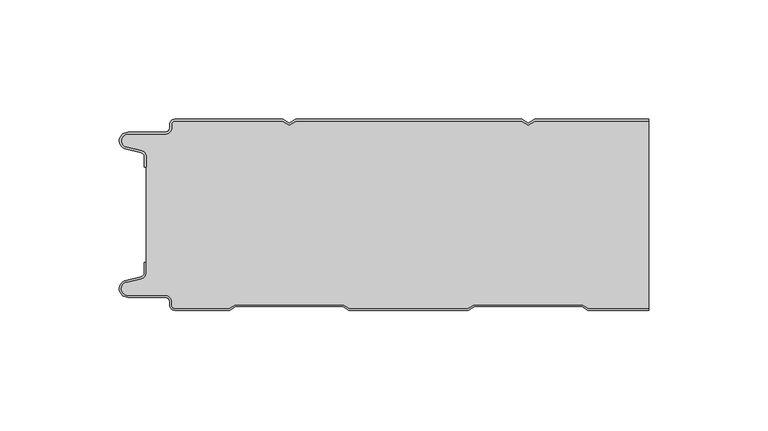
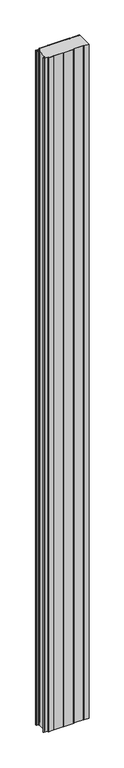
"""IFC4 building model written with IfcOpenShell, lengths in millimetres: plate geometry, PMH_Curtain-PaneL-Standard : ACH_PMH_Stone-wool-Panel_80M."""

from ifc_helpers import new_model, si_unit, point, frame_2d, origin, origin_with_axes, place, context, project, spatial, polyline, circle_curve, trimmed, segment, composite_curve, outline, extrude, source, transform, mapped, element, save


def plate_76a87134(model_context):
    return source(origin(), model_context, "Body", "SweptSolid", [
        extrude(outline(composite_curve([segment(trimmed(circle_curve(frame_2d((-102.0, -15.878557)), 2.0), [point((-100.0, -15.878557))], [point((-101.5500978, -13.9298169))], True, "CARTESIAN"), True, "CONTINUOUS"), segment(polyline([(-101.5500978, -13.9298169), (-107.7098239, -12.507732)]), True, "CONTINUOUS"), segment(trimmed(circle_curve(frame_2d((-106.9, -9.0)), 3.6), [point((-107.7098239, -12.507732))], [point((-106.9, -5.4))], False, "CARTESIAN"), True, "CONTINUOUS"), segment(polyline([(-106.9, -5.4), (-91.4, -5.4)]), True, "CONTINUOUS"), segment(trimmed(circle_curve(frame_2d((-91.4, -3.4)), 2.0), [point((-91.4, -5.4))], [point((-89.4, -3.4))], True, "CARTESIAN"), True, "CONTINUOUS"), segment(polyline([(-89.4, -3.4), (-89.4, -2.0)]), True, "CONTINUOUS"), segment(trimmed(circle_curve(frame_2d((-87.4, -2.0)), 2.0), [point((-89.4, -2.0))], [point((-87.4, 0.0))], False, "CARTESIAN"), True, "CONTINUOUS"), segment(polyline([(-87.4, 0.0), (-42.0999995, 0.0), (-39.4, -1.5588455), (-36.7000005, 0.0), (57.9000005, 0.0), (60.6, -1.5588455), (63.2999995, 0.0), (111.0, 0.0), (111.0, -0.8), (63.5143588, -0.8), (60.6, -2.482606), (57.6856412, -0.8), (-36.4856412, -0.8), (-39.4, -2.482606), (-42.3143588, -0.8), (-87.4, -0.8)]), True, "CONTINUOUS"), segment(trimmed(circle_curve(frame_2d((-87.4, -2.0)), 1.2), [point((-87.4, -0.8))], [point((-88.6, -2.0))], True, "CARTESIAN"), True, "CONTINUOUS"), segment(polyline([(-88.6, -2.0), (-88.6, -3.4)]), True, "CONTINUOUS"), segment(trimmed(circle_curve(frame_2d((-91.4, -3.4)), 2.8), [point((-88.6, -3.4))], [point((-91.4, -6.2))], False, "CARTESIAN"), True, "CONTINUOUS"), segment(polyline([(-91.4, -6.2), (-106.9, -6.2)]), True, "CONTINUOUS"), segment(trimmed(circle_curve(frame_2d((-106.9, -9.0)), 2.8), [point((-106.9, -6.2))], [point((-107.529863, -11.7282362))], True, "CARTESIAN"), True, "CONTINUOUS"), segment(polyline([(-107.529863, -11.7282362), (-101.370137, -13.150321)]), True, "CONTINUOUS"), segment(trimmed(circle_curve(frame_2d((-102.0, -15.878557)), 2.8), [point((-101.370137, -13.150321))], [point((-99.2, -15.878557))], False, "CARTESIAN"), True, "CONTINUOUS"), segment(polyline([(-99.2, -15.878557), (-99.2, -20.0), (-100.0, -20.0), (-100.0, -15.878557)]), True, "CONTINUOUS")], self_intersect=False)), origin_with_axes(), (0.0, 0.0, 1.0), 3500.0),
        extrude(outline(composite_curve([segment(polyline([(-99.2, -64.121443), (-99.2, -15.8785573)]), True, "CONTINUOUS"), segment(trimmed(circle_curve(frame_2d((-102.0, -15.8785573)), 2.8), [point((-99.2, -15.8785573))], [point((-101.370137, -13.1503212))], True, "CARTESIAN"), True, "CONTINUOUS"), segment(polyline([(-101.370137, -13.1503212), (-107.5298631, -11.7282362)]), True, "CONTINUOUS"), segment(trimmed(circle_curve(frame_2d((-106.9, -9.0)), 2.8), [point((-107.5298631, -11.7282362))], [point((-106.9, -6.2))], False, "CARTESIAN"), True, "CONTINUOUS"), segment(polyline([(-106.9, -6.2), (-91.4000001, -6.2)]), True, "CONTINUOUS"), segment(trimmed(circle_curve(frame_2d((-91.4000001, -3.4)), 2.8), [point((-91.4000001, -6.2))], [point((-88.6000001, -3.4))], True, "CARTESIAN"), True, "CONTINUOUS"), segment(polyline([(-88.6000001, -3.4), (-88.6000001, -2.0)]), True, "CONTINUOUS"), segment(trimmed(circle_curve(frame_2d((-87.4000001, -2.0)), 1.2), [point((-88.6000001, -2.0))], [point((-87.4000001, -0.8))], False, "CARTESIAN"), True, "CONTINUOUS"), segment(polyline([(-87.4000001, -0.8), (-42.3143589, -0.8), (-39.4000001, -2.482606), (-36.4856412, -0.8), (57.6856411, -0.8), (60.5999999, -2.482606), (63.5143588, -0.8), (111.0, -0.8), (111.0, -79.2), (85.8105122, -79.2), (83.2124346, -77.7), (37.9837184, -77.7), (35.3856408, -79.2), (-14.1894878, -79.2), (-16.7875654, -77.7), (-62.0162816, -77.7), (-64.6143592, -79.2), (-87.4, -79.2)]), True, "CONTINUOUS"), segment(trimmed(circle_curve(frame_2d((-87.4, -78.0)), 1.2), [point((-87.4, -79.2))], [point((-88.6, -78.0))], False, "CARTESIAN"), True, "CONTINUOUS"), segment(polyline([(-88.6, -78.0), (-88.6, -76.5999998)]), True, "CONTINUOUS"), segment(trimmed(circle_curve(frame_2d((-91.4, -76.5999998)), 2.8), [point((-88.6, -76.5999998))], [point((-91.4, -73.7999998))], True, "CARTESIAN"), True, "CONTINUOUS"), segment(polyline([(-91.4, -73.7999998), (-106.9, -73.7999998)]), True, "CONTINUOUS"), segment(trimmed(circle_curve(frame_2d((-106.9, -71.0)), 2.7999998), [point((-106.9, -73.7999998))], [point((-107.529863, -68.271764))], False, "CARTESIAN"), True, "CONTINUOUS"), segment(polyline([(-107.529863, -68.271764), (-101.370137, -66.8496792)]), True, "CONTINUOUS"), segment(trimmed(circle_curve(frame_2d((-102.0, -64.121443)), 2.8), [point((-101.370137, -66.8496792))], [point((-99.2, -64.121443))], True, "CARTESIAN"), True, "CONTINUOUS")], self_intersect=False)), origin_with_axes(), (0.0, 0.0, 1.0), 3500.0),
        extrude(outline(composite_curve([segment(trimmed(circle_curve(frame_2d((-87.4, -78.0)), 2.0), [point((-87.4, -80.0))], [point((-89.4, -78.0))], False, "CARTESIAN"), True, "CONTINUOUS"), segment(polyline([(-89.4, -78.0), (-89.4, -76.6)]), True, "CONTINUOUS"), segment(trimmed(circle_curve(frame_2d((-91.4, -76.6)), 2.0), [point((-89.4, -76.6))], [point((-91.4, -74.6))], True, "CARTESIAN"), True, "CONTINUOUS"), segment(polyline([(-91.4, -74.6), (-106.9, -74.6)]), True, "CONTINUOUS"), segment(trimmed(circle_curve(frame_2d((-106.9, -71.0)), 3.6), [point((-106.9, -74.6))], [point((-107.7098239, -67.4922678))], False, "CARTESIAN"), True, "CONTINUOUS"), segment(polyline([(-107.7098239, -67.4922678), (-101.5500979, -66.070183)]), True, "CONTINUOUS"), segment(trimmed(circle_curve(frame_2d((-102.0, -64.121443)), 2.0), [point((-101.5500979, -66.070183))], [point((-100.0, -64.121443))], True, "CARTESIAN"), True, "CONTINUOUS"), segment(polyline([(-100.0, -64.121443), (-100.0, -60.0), (-99.2, -60.0), (-99.2, -64.121443)]), True, "CONTINUOUS"), segment(trimmed(circle_curve(frame_2d((-102.0, -64.121443)), 2.8), [point((-99.2, -64.121443))], [point((-101.370137, -66.8496792))], False, "CARTESIAN"), True, "CONTINUOUS"), segment(polyline([(-101.370137, -66.8496792), (-107.529863, -68.271764)]), True, "CONTINUOUS"), segment(trimmed(circle_curve(frame_2d((-106.9, -71.0)), 2.8), [point((-107.529863, -68.271764))], [point((-106.9, -73.8))], True, "CARTESIAN"), True, "CONTINUOUS"), segment(polyline([(-106.9, -73.8), (-91.4, -73.8)]), True, "CONTINUOUS"), segment(trimmed(circle_curve(frame_2d((-91.4, -76.6)), 2.8), [point((-91.4, -73.8))], [point((-88.6, -76.6))], False, "CARTESIAN"), True, "CONTINUOUS"), segment(polyline([(-88.6, -76.6), (-88.6, -78.0)]), True, "CONTINUOUS"), segment(trimmed(circle_curve(frame_2d((-87.4, -78.0)), 1.2), [point((-88.6, -78.0))], [point((-87.4, -79.2))], True, "CARTESIAN"), True, "CONTINUOUS"), segment(polyline([(-87.4, -79.2), (-64.6143592, -79.2), (-62.0162816, -77.7), (-16.7875654, -77.7), (-14.1894878, -79.2), (35.3856408, -79.2), (37.9837184, -77.7), (83.2124346, -77.7), (85.8105122, -79.2), (111.0, -79.2), (111.0, -80.0), (85.5961529, -80.0), (82.9980753, -78.5), (38.1980777, -78.5), (35.6000001, -80.0), (-14.4038471, -80.0), (-17.0019247, -78.5), (-61.8019223, -78.5), (-64.3999999, -80.0), (-87.4, -80.0)]), True, "CONTINUOUS")], self_intersect=False)), origin_with_axes(), (0.0, 0.0, 1.0), 3500.0),
    ])


if __name__ == "__main__":
    model = new_model("IFC4")
    model_context = context("Model", 3, world=origin())
    ifc_project = project(units=[si_unit("LENGTHUNIT", "METRE", prefix="MILLI")], contexts=[model_context])
    site = spatial("IfcSite", under=ifc_project)
    building = spatial("IfcBuilding", under=site)
    placement = place(None, origin())
    plate_shape = plate_76a87134(model_context)
    element("IfcPlate", 1, ObjectType="PMH_Curtain-PaneL-Standard : ACH_PMH_Stone-wool-Panel_80M", at=placement, inside=building, context=model_context, shape_type="MappedRepresentation", body=[
        mapped(plate_shape, transform((0.0, 0.0, 0.0), x_axis=(1.0, 0.0, 0.0), y_axis=(0.0, 1.0, 0.0), z_axis=(0.0, 0.0, 1.0))),
    ])
    save(model, "model.ifc")
